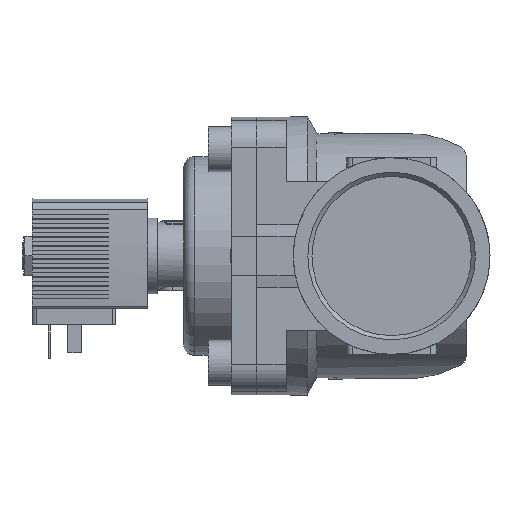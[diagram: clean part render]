
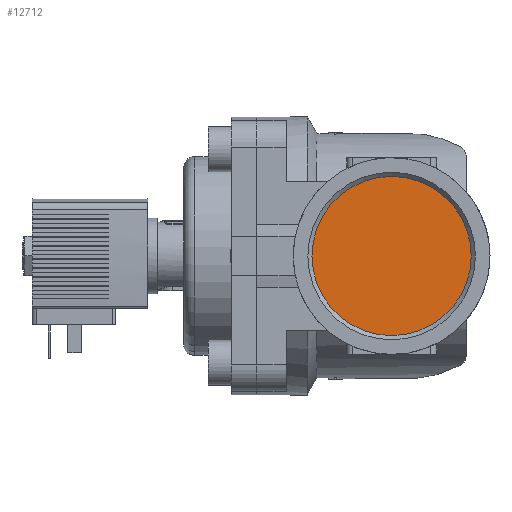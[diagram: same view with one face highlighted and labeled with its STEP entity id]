
A CAD part, left-side view. The second image highlights one B-rep face of the part: STEP entity #12712.
In plain terms, the highlighted planar face has unit normal (-1, 0, 0).
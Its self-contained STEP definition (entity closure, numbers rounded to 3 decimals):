
#3699=ORIENTED_EDGE('',*,*,#6114,.F.);
#6114=EDGE_CURVE('',#7423,#7423,#8167,.T.);
#7423=VERTEX_POINT('',#18240);
#8167=CIRCLE('',#13456,28.328);
#8547=EDGE_LOOP('',(#3699));
#9130=FACE_BOUND('',#8547,.T.);
#9607=PLANE('',#13457);
#12712=ADVANCED_FACE('',(#9130),#9607,.T.);
#13456=AXIS2_PLACEMENT_3D('',#18239,#15100,#15101);
#13457=AXIS2_PLACEMENT_3D('',#18241,#15102,#15103);
#15100=DIRECTION('',(1.,0.,0.));
#15101=DIRECTION('',(0.,1.,0.));
#15102=DIRECTION('',(-1.,0.,0.));
#15103=DIRECTION('',(0.,-1.,0.));
#18239=CARTESIAN_POINT('',(-39.5,0.,0.));
#18240=CARTESIAN_POINT('',(-39.5,28.328,0.));
#18241=CARTESIAN_POINT('',(-39.5,28.328,0.));
